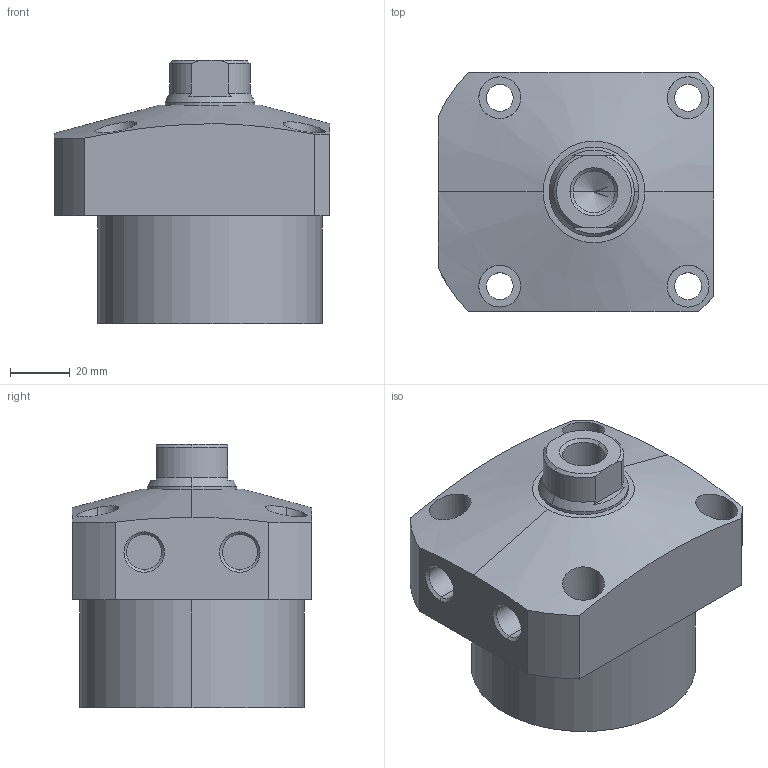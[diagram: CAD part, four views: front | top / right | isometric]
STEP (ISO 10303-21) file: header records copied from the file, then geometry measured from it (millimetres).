
FILE_DESCRIPTION (( 'STEP AP203' ), '1' );
FILE_NAME ('CLL-075CA-020.STEP', '2019-12-20T05:39:39', ( '' ), ( '' ), 'SwSTEP 2.0', 'SolidWorks 2015', '' );
FILE_SCHEMA (( 'CONFIG_CONTROL_DESIGN' ));
Length unit declared in the file: millimetre
Products named in the file (1): CLL-075CA-020
Bounding box: 92 x 80 x 88 mm (x, y, z)
Volume: 381741.3 mm3; surface area: 39758.1 mm2
Topology: 1 solids, 1 shells, 72 faces, 169 edges, 108 vertices
Faces by surface type: cylinder 35, plane 22, cone 15
Entity records: 2557 total; most frequent: CARTESIAN_POINT 792, DIRECTION 366, ORIENTED_EDGE 334, EDGE_CURVE 167, AXIS2_PLACEMENT_3D 150, VERTEX_POINT 108, EDGE_LOOP 91, CIRCLE 77
